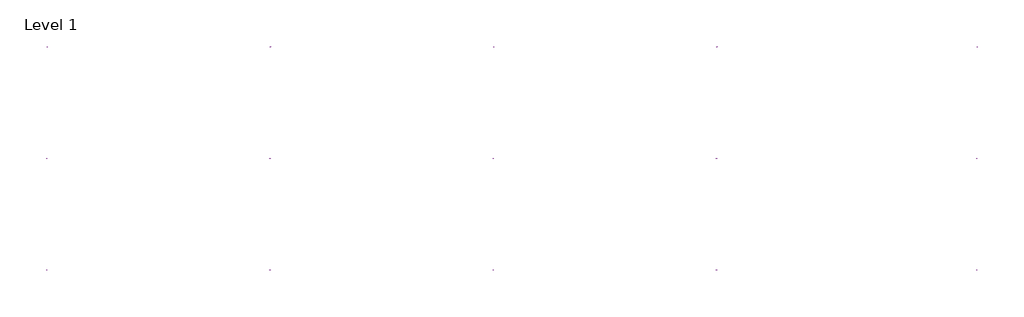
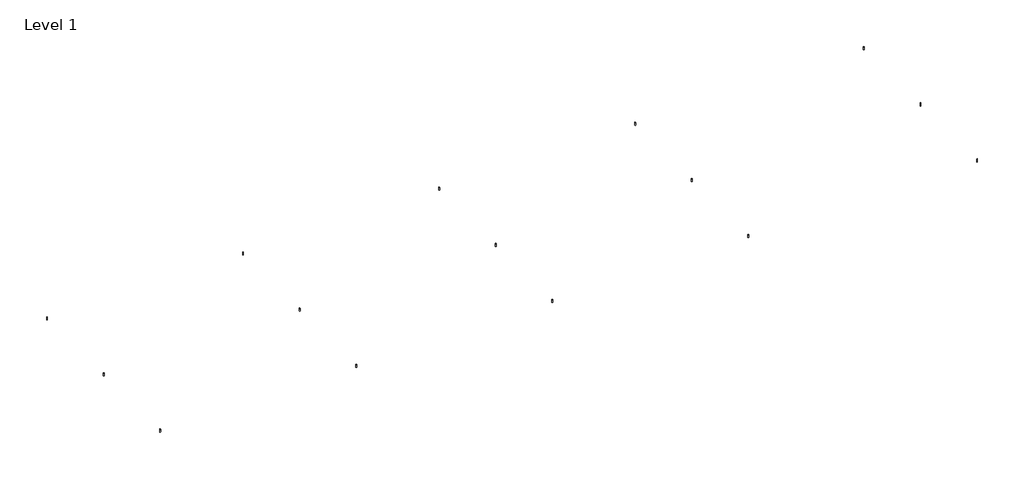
# One storey: 15 fire suppression terminals.
"""IFC4 building model written with IfcOpenShell, lengths in millimetres."""

from ifc_helpers import new_model, si_unit, origin, place, context, project, spatial, transform, mapped, element, save
from components import fire_suppression_terminal_ccbc3d6c

model = new_model("IFC4")

# Units and contexts
model_context = context("Model", 3, world=origin())
ifc_project = project(units=[si_unit("LENGTHUNIT", "METRE", prefix="MILLI")], contexts=[model_context])

# Site, building, storey
site = spatial("IfcSite", under=ifc_project)
building = spatial("IfcBuilding", under=site)
storey = spatial("IfcBuildingStorey", under=building, Name="Level 1", Elevation=0.0)

# Fire suppression terminals
placement = place(None, origin())
fire_suppression_terminal_shape = fire_suppression_terminal_ccbc3d6c(model_context)
element("IfcFireSuppressionTerminal", 1, ObjectType="Sprinkler - Pendent - Hosted : 1/2\" Pendent", at=placement, inside=storey, context=model_context, shape_type="MappedRepresentation", body=[
    mapped(fire_suppression_terminal_shape, transform((-34304.2605923, 15647.665681, 2514.6), x_axis=(1.0, 0.0, 0.0), y_axis=(0.0, -1.0, 0.0), z_axis=(0.0, 0.0, -1.0))),
])
element("IfcFireSuppressionTerminal", 2, ObjectType="Sprinkler - Pendent - Hosted : 1/2\" Pendent", at=placement, inside=storey, context=model_context, shape_type="MappedRepresentation", body=[
    mapped(fire_suppression_terminal_shape, transform((-30646.6605923, 15647.665681, 2514.6), x_axis=(1.0, 0.0, 0.0), y_axis=(0.0, -1.0, 0.0), z_axis=(0.0, 0.0, -1.0))),
])
element("IfcFireSuppressionTerminal", 3, ObjectType="Sprinkler - Pendent - Hosted : 1/2\" Pendent", at=placement, inside=storey, context=model_context, shape_type="MappedRepresentation", body=[
    mapped(fire_suppression_terminal_shape, transform((-26989.0605923, 15647.665681, 2514.6), x_axis=(1.0, 0.0, 0.0), y_axis=(0.0, -1.0, 0.0), z_axis=(0.0, 0.0, -1.0))),
])
element("IfcFireSuppressionTerminal", 4, ObjectType="Sprinkler - Pendent - Hosted : 1/2\" Pendent", at=placement, inside=storey, context=model_context, shape_type="MappedRepresentation", body=[
    mapped(fire_suppression_terminal_shape, transform((-23331.4605923, 15647.665681, 2514.6), x_axis=(1.0, 0.0, 0.0), y_axis=(0.0, -1.0, 0.0), z_axis=(0.0, 0.0, -1.0))),
])
element("IfcFireSuppressionTerminal", 5, ObjectType="Sprinkler - Pendent - Hosted : 1/2\" Pendent", at=placement, inside=storey, context=model_context, shape_type="MappedRepresentation", body=[
    mapped(fire_suppression_terminal_shape, transform((-19064.2605923, 15647.665681, 2514.6), x_axis=(1.0, 0.0, 0.0), y_axis=(0.0, -1.0, 0.0), z_axis=(0.0, 0.0, -1.0))),
])
element("IfcFireSuppressionTerminal", 6, ObjectType="Sprinkler - Pendent - Hosted : 1/2\" Pendent", at=placement, inside=storey, context=model_context, shape_type="MappedRepresentation", body=[
    mapped(fire_suppression_terminal_shape, transform((-34304.2605923, 17476.465681, 2514.6), x_axis=(1.0, 0.0, 0.0), y_axis=(0.0, -1.0, 0.0), z_axis=(0.0, 0.0, -1.0))),
])
element("IfcFireSuppressionTerminal", 7, ObjectType="Sprinkler - Pendent - Hosted : 1/2\" Pendent", at=placement, inside=storey, context=model_context, shape_type="MappedRepresentation", body=[
    mapped(fire_suppression_terminal_shape, transform((-30646.6605923, 17476.465681, 2514.6), x_axis=(1.0, 0.0, 0.0), y_axis=(0.0, -1.0, 0.0), z_axis=(0.0, 0.0, -1.0))),
])
element("IfcFireSuppressionTerminal", 8, ObjectType="Sprinkler - Pendent - Hosted : 1/2\" Pendent", at=placement, inside=storey, context=model_context, shape_type="MappedRepresentation", body=[
    mapped(fire_suppression_terminal_shape, transform((-26989.0605923, 17476.465681, 2514.6), x_axis=(1.0, 0.0, 0.0), y_axis=(0.0, -1.0, 0.0), z_axis=(0.0, 0.0, -1.0))),
])
element("IfcFireSuppressionTerminal", 9, ObjectType="Sprinkler - Pendent - Hosted : 1/2\" Pendent", at=placement, inside=storey, context=model_context, shape_type="MappedRepresentation", body=[
    mapped(fire_suppression_terminal_shape, transform((-23331.4605923, 17476.465681, 2514.6), x_axis=(1.0, 0.0, 0.0), y_axis=(0.0, -1.0, 0.0), z_axis=(0.0, 0.0, -1.0))),
])
element("IfcFireSuppressionTerminal", 10, ObjectType="Sprinkler - Pendent - Hosted : 1/2\" Pendent", at=placement, inside=storey, context=model_context, shape_type="MappedRepresentation", body=[
    mapped(fire_suppression_terminal_shape, transform((-19064.2605923, 17476.465681, 2514.6), x_axis=(1.0, 0.0, 0.0), y_axis=(0.0, -1.0, 0.0), z_axis=(0.0, 0.0, -1.0))),
])
element("IfcFireSuppressionTerminal", 11, ObjectType="Sprinkler - Pendent - Hosted : 1/2\" Pendent", at=placement, inside=storey, context=model_context, shape_type="MappedRepresentation", body=[
    mapped(fire_suppression_terminal_shape, transform((-34304.2605923, 13821.54154, 2514.6), x_axis=(1.0, 0.0, 0.0), y_axis=(0.0, -1.0, 0.0), z_axis=(0.0, 0.0, -1.0))),
])
element("IfcFireSuppressionTerminal", 12, ObjectType="Sprinkler - Pendent - Hosted : 1/2\" Pendent", at=placement, inside=storey, context=model_context, shape_type="MappedRepresentation", body=[
    mapped(fire_suppression_terminal_shape, transform((-30646.6605923, 13821.54154, 2514.6), x_axis=(1.0, 0.0, 0.0), y_axis=(0.0, -1.0, 0.0), z_axis=(0.0, 0.0, -1.0))),
])
element("IfcFireSuppressionTerminal", 13, ObjectType="Sprinkler - Pendent - Hosted : 1/2\" Pendent", at=placement, inside=storey, context=model_context, shape_type="MappedRepresentation", body=[
    mapped(fire_suppression_terminal_shape, transform((-26989.0605923, 13821.54154, 2514.6), x_axis=(1.0, 0.0, 0.0), y_axis=(0.0, -1.0, 0.0), z_axis=(0.0, 0.0, -1.0))),
])
element("IfcFireSuppressionTerminal", 14, ObjectType="Sprinkler - Pendent - Hosted : 1/2\" Pendent", at=placement, inside=storey, context=model_context, shape_type="MappedRepresentation", body=[
    mapped(fire_suppression_terminal_shape, transform((-23331.4605923, 13821.54154, 2514.6), x_axis=(1.0, 0.0, 0.0), y_axis=(0.0, -1.0, 0.0), z_axis=(0.0, 0.0, -1.0))),
])
element("IfcFireSuppressionTerminal", 15, ObjectType="Sprinkler - Pendent - Hosted : 1/2\" Pendent", at=placement, inside=storey, context=model_context, shape_type="MappedRepresentation", body=[
    mapped(fire_suppression_terminal_shape, transform((-19064.2605923, 13821.54154, 2514.6), x_axis=(1.0, 0.0, 0.0), y_axis=(0.0, -1.0, 0.0), z_axis=(0.0, 0.0, -1.0))),
])

save(model, "model.ifc")
